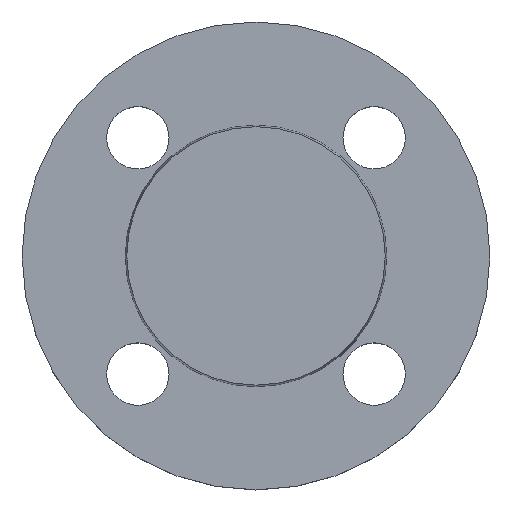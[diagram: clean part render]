
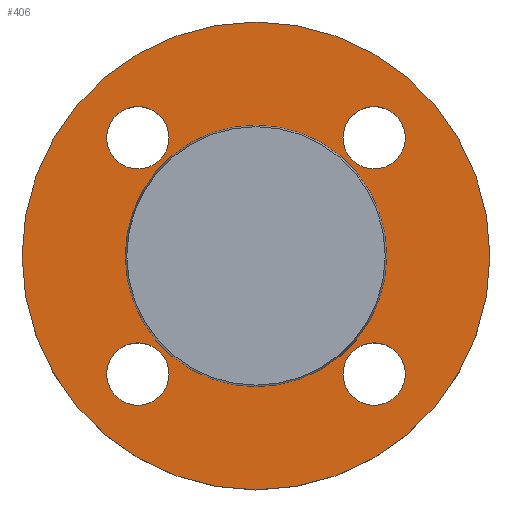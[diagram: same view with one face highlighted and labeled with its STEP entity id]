
A CAD part, top view. The second image highlights one B-rep face of the part: STEP entity #406.
In plain terms, the highlighted planar face has unit normal (0, 0, 1).
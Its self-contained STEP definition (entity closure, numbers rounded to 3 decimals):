
#8 = CARTESIAN_POINT ( 'NONE',  ( -52.5, 0., -2. ) ) ;
#17 = AXIS2_PLACEMENT_3D ( 'NONE', #389, #390, #391 ) ;
#23 = CIRCLE ( 'NONE', #55, 29.353 ) ;
#29 = AXIS2_PLACEMENT_3D ( 'NONE', #398, #75, #76 ) ;
#50 = CARTESIAN_POINT ( 'NONE',  ( 0., 0., -2. ) ) ;
#51 = DIRECTION ( 'NONE',  ( 0., 0., -1. ) ) ;
#52 = DIRECTION ( 'NONE',  ( -1., 0., 0. ) ) ;
#55 = AXIS2_PLACEMENT_3D ( 'NONE', #50, #51, #52 ) ;
#68 = EDGE_CURVE ( 'NONE', #323, #319, #472, .T. ) ;
#75 = DIRECTION ( 'NONE',  ( 0., 0., -1. ) ) ;
#76 = DIRECTION ( 'NONE',  ( 1., 0., 0. ) ) ;
#77 = AXIS2_PLACEMENT_3D ( 'NONE', #416, #415, #421 ) ;
#78 = CARTESIAN_POINT ( 'NONE',  ( -19.517, -26.517, -2. ) ) ;
#80 = CIRCLE ( 'NONE', #338, 7. ) ;
#87 = EDGE_CURVE ( 'NONE', #321, #326, #169, .T. ) ;
#94 = EDGE_CURVE ( 'NONE', #319, #323, #80, .T. ) ;
#116 = CIRCLE ( 'NONE', #148, 7. ) ;
#124 = CARTESIAN_POINT ( 'NONE',  ( 0., 0., -2. ) ) ;
#126 = DIRECTION ( 'NONE',  ( 0., 0., -1. ) ) ;
#127 = DIRECTION ( 'NONE',  ( -1., 0., 0. ) ) ;
#133 = CARTESIAN_POINT ( 'NONE',  ( -33.517, -26.517, -2. ) ) ;
#141 = CARTESIAN_POINT ( 'NONE',  ( 19.517, -26.517, -2. ) ) ;
#148 = AXIS2_PLACEMENT_3D ( 'NONE', #182, #185, #187 ) ;
#150 = EDGE_LOOP ( 'NONE', ( #243, #244 ) ) ;
#157 = AXIS2_PLACEMENT_3D ( 'NONE', #400, #401, #402 ) ;
#159 = VERTEX_POINT ( 'NONE', #8 ) ;
#160 = CARTESIAN_POINT ( 'NONE',  ( 19.517, 26.517, -2. ) ) ;
#163 = CARTESIAN_POINT ( 'NONE',  ( 33.517, -26.517, -2. ) ) ;
#166 = CARTESIAN_POINT ( 'NONE',  ( 33.517, 26.517, -2. ) ) ;
#167 = CARTESIAN_POINT ( 'NONE',  ( -19.517, 26.517, -2. ) ) ;
#168 = AXIS2_PLACEMENT_3D ( 'NONE', #403, #404, #405 ) ;
#169 = CIRCLE ( 'NONE', #206, 7. ) ;
#172 = CARTESIAN_POINT ( 'NONE',  ( 29.353, 0., -2. ) ) ;
#182 = CARTESIAN_POINT ( 'NONE',  ( -26.517, 26.517, -2. ) ) ;
#185 = DIRECTION ( 'NONE',  ( 0., 0., -1. ) ) ;
#187 = DIRECTION ( 'NONE',  ( 1., 0., 0. ) ) ;
#206 = AXIS2_PLACEMENT_3D ( 'NONE', #373, #374, #375 ) ;
#208 = AXIS2_PLACEMENT_3D ( 'NONE', #124, #126, #127 ) ;
#212 = CIRCLE ( 'NONE', #208, 29.353 ) ;
#231 = EDGE_CURVE ( 'NONE', #339, #240, #23, .T. ) ;
#238 = ORIENTED_EDGE ( 'NONE', *, *, #68, .T. ) ;
#240 = VERTEX_POINT ( 'NONE', #396 ) ;
#241 = VERTEX_POINT ( 'NONE', #397 ) ;
#242 = ORIENTED_EDGE ( 'NONE', *, *, #94, .T. ) ;
#243 = ORIENTED_EDGE ( 'NONE', *, *, #487, .T. ) ;
#244 = ORIENTED_EDGE ( 'NONE', *, *, #250, .T. ) ;
#245 = ORIENTED_EDGE ( 'NONE', *, *, #469, .T. ) ;
#248 = ORIENTED_EDGE ( 'NONE', *, *, #360, .T. ) ;
#249 = ORIENTED_EDGE ( 'NONE', *, *, #395, .T. ) ;
#250 = EDGE_CURVE ( 'NONE', #315, #279, #501, .T. ) ;
#251 = ORIENTED_EDGE ( 'NONE', *, *, #87, .T. ) ;
#252 = ORIENTED_EDGE ( 'NONE', *, *, #312, .T. ) ;
#253 = ORIENTED_EDGE ( 'NONE', *, *, #231, .T. ) ;
#254 = ORIENTED_EDGE ( 'NONE', *, *, #376, .F. ) ;
#255 = ORIENTED_EDGE ( 'NONE', *, *, #367, .F. ) ;
#265 = VERTEX_POINT ( 'NONE', #419 ) ;
#276 = EDGE_LOOP ( 'NONE', ( #238, #242 ) ) ;
#279 = VERTEX_POINT ( 'NONE', #78 ) ;
#289 = AXIS2_PLACEMENT_3D ( 'NONE', #353, #355, #356 ) ;
#294 = CIRCLE ( 'NONE', #168, 7. ) ;
#296 = CIRCLE ( 'NONE', #17, 52.5 ) ;
#308 = EDGE_LOOP ( 'NONE', ( #249, #251 ) ) ;
#312 = EDGE_CURVE ( 'NONE', #240, #339, #212, .T. ) ;
#315 = VERTEX_POINT ( 'NONE', #133 ) ;
#319 = VERTEX_POINT ( 'NONE', #141 ) ;
#321 = VERTEX_POINT ( 'NONE', #160 ) ;
#322 = EDGE_LOOP ( 'NONE', ( #252, #253 ) ) ;
#323 = VERTEX_POINT ( 'NONE', #163 ) ;
#326 = VERTEX_POINT ( 'NONE', #166 ) ;
#329 = EDGE_LOOP ( 'NONE', ( #254, #255 ) ) ;
#330 = VERTEX_POINT ( 'NONE', #167 ) ;
#335 = EDGE_LOOP ( 'NONE', ( #245, #248 ) ) ;
#337 = AXIS2_PLACEMENT_3D ( 'NONE', #417, #464, #431 ) ;
#338 = AXIS2_PLACEMENT_3D ( 'NONE', #382, #383, #384 ) ;
#339 = VERTEX_POINT ( 'NONE', #172 ) ;
#353 = CARTESIAN_POINT ( 'NONE',  ( 26.517, -26.517, -2. ) ) ;
#355 = DIRECTION ( 'NONE',  ( 0., 0., -1. ) ) ;
#356 = DIRECTION ( 'NONE',  ( 1., 0., 0. ) ) ;
#360 = EDGE_CURVE ( 'NONE', #241, #330, #116, .T. ) ;
#365 = AXIS2_PLACEMENT_3D ( 'NONE', #399, #453, #454 ) ;
#367 = EDGE_CURVE ( 'NONE', #159, #265, #296, .T. ) ;
#373 = CARTESIAN_POINT ( 'NONE',  ( 26.517, 26.517, -2. ) ) ;
#374 = DIRECTION ( 'NONE',  ( 0., 0., -1. ) ) ;
#375 = DIRECTION ( 'NONE',  ( 1., 0., 0. ) ) ;
#376 = EDGE_CURVE ( 'NONE', #265, #159, #504, .T. ) ;
#377 = CIRCLE ( 'NONE', #365, 7. ) ;
#382 = CARTESIAN_POINT ( 'NONE',  ( 26.517, -26.517, -2. ) ) ;
#383 = DIRECTION ( 'NONE',  ( 0., 0., -1. ) ) ;
#384 = DIRECTION ( 'NONE',  ( 1., 0., 0. ) ) ;
#389 = CARTESIAN_POINT ( 'NONE',  ( 0., 0., -2. ) ) ;
#390 = DIRECTION ( 'NONE',  ( 0., 0., -1. ) ) ;
#391 = DIRECTION ( 'NONE',  ( -1., 0., 0. ) ) ;
#395 = EDGE_CURVE ( 'NONE', #326, #321, #294, .T. ) ;
#396 = CARTESIAN_POINT ( 'NONE',  ( -29.353, 0., -2. ) ) ;
#397 = CARTESIAN_POINT ( 'NONE',  ( -33.517, 26.517, -2. ) ) ;
#398 = CARTESIAN_POINT ( 'NONE',  ( -26.517, -26.517, -2. ) ) ;
#399 = CARTESIAN_POINT ( 'NONE',  ( -26.517, 26.517, -2. ) ) ;
#400 = CARTESIAN_POINT ( 'NONE',  ( 0., 0., -2. ) ) ;
#401 = DIRECTION ( 'NONE',  ( 0., 0., -1. ) ) ;
#402 = DIRECTION ( 'NONE',  ( -1., 0., 0. ) ) ;
#403 = CARTESIAN_POINT ( 'NONE',  ( 26.517, 26.517, -2. ) ) ;
#404 = DIRECTION ( 'NONE',  ( 0., 0., -1. ) ) ;
#405 = DIRECTION ( 'NONE',  ( 1., 0., 0. ) ) ;
#406 = ADVANCED_FACE ( 'NONE', ( #407, #408, #409, #411, #410, #413 ), #412, .T. ) ;
#407 = FACE_BOUND ( 'NONE', #276, .T. ) ;
#408 = FACE_BOUND ( 'NONE', #150, .T. ) ;
#409 = FACE_BOUND ( 'NONE', #335, .T. ) ;
#410 = FACE_BOUND ( 'NONE', #322, .T. ) ;
#411 = FACE_BOUND ( 'NONE', #308, .T. ) ;
#412 = PLANE ( 'NONE',  #77 ) ;
#413 = FACE_OUTER_BOUND ( 'NONE', #329, .T. ) ;
#415 = DIRECTION ( 'NONE',  ( 0., 0., 1. ) ) ;
#416 = CARTESIAN_POINT ( 'NONE',  ( 29.353, 0., -2. ) ) ;
#417 = CARTESIAN_POINT ( 'NONE',  ( -26.517, -26.517, -2. ) ) ;
#419 = CARTESIAN_POINT ( 'NONE',  ( 52.5, 0., -2. ) ) ;
#421 = DIRECTION ( 'NONE',  ( 1., 0., 0. ) ) ;
#431 = DIRECTION ( 'NONE',  ( 1., 0., 0. ) ) ;
#453 = DIRECTION ( 'NONE',  ( 0., 0., -1. ) ) ;
#454 = DIRECTION ( 'NONE',  ( 1., 0., 0. ) ) ;
#464 = DIRECTION ( 'NONE',  ( 0., 0., -1. ) ) ;
#469 = EDGE_CURVE ( 'NONE', #330, #241, #377, .T. ) ;
#472 = CIRCLE ( 'NONE', #289, 7. ) ;
#487 = EDGE_CURVE ( 'NONE', #279, #315, #515, .T. ) ;
#501 = CIRCLE ( 'NONE', #29, 7. ) ;
#504 = CIRCLE ( 'NONE', #157, 52.5 ) ;
#515 = CIRCLE ( 'NONE', #337, 7. ) ;
